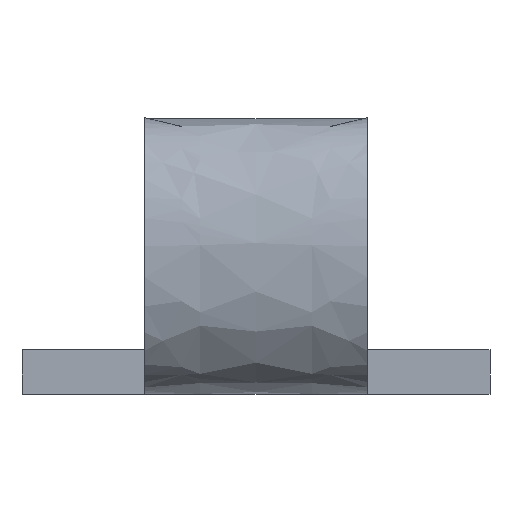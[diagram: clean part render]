
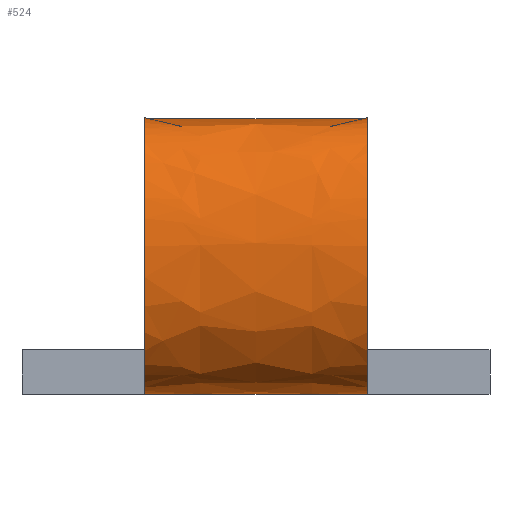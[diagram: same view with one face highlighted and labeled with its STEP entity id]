
A CAD part, left-side view. The second image highlights one B-rep face of the part: STEP entity #524.
In plain terms, the highlighted free-form (B-spline) face has degree [5, 1] with [6, 2] control points.
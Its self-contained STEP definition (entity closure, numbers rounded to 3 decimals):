
#70 = CARTESIAN_POINT ( 'NONE',  ( -36.379, 13.005, 0. ) ) ;
#90 = VERTEX_POINT ( 'NONE', #342 ) ;
#98 = CARTESIAN_POINT ( 'NONE',  ( -36.379, 13.005, 0. ) ) ;
#127 = VECTOR ( 'NONE', #995, 1000. ) ;
#132 = CARTESIAN_POINT ( 'NONE',  ( -36.379, 13.005, 0. ) ) ;
#143 = CARTESIAN_POINT ( 'NONE',  ( -36.379, 3.005, 12.36 ) ) ;
#145 = CARTESIAN_POINT ( 'NONE',  ( -36.379, 13.005, 0.276 ) ) ;
#194 = EDGE_LOOP ( 'NONE', ( #234, #733, #601, #372 ) ) ;
#199 = CARTESIAN_POINT ( 'NONE',  ( -36.379, 13.005, 12.36 ) ) ;
#214 = CARTESIAN_POINT ( 'NONE',  ( -42.607, 13.005, 6.669 ) ) ;
#219 = CARTESIAN_POINT ( 'NONE',  ( -42.607, 3.005, 6.669 ) ) ;
#234 = ORIENTED_EDGE ( 'NONE', *, *, #835, .F. ) ;
#269 = CARTESIAN_POINT ( 'NONE',  ( -36.379, 3.005, 12.36 ) ) ;
#281 = EDGE_CURVE ( 'NONE', #649, #90, #501, .T. ) ;
#291 = B_SPLINE_SURFACE_WITH_KNOTS ( 'NONE', 5, 1, ( 
 ( #944, #143 ),
 ( #775, #694 ),
 ( #214, #219 ),
 ( #778, #700 ),
 ( #145, #627 ),
 ( #70, #546 ) ),
 .UNSPECIFIED., .F., .F., .F.,
 ( 6, 6 ),
 ( 2, 2 ),
 ( 0., 1. ),
 ( 0., 1. ),
 .UNSPECIFIED. ) ;
#340 = LINE ( 'NONE', #500, #752 ) ;
#342 = CARTESIAN_POINT ( 'NONE',  ( -36.379, 3.005, 0. ) ) ;
#355 = FACE_OUTER_BOUND ( 'NONE', #194, .T. ) ;
#371 = CARTESIAN_POINT ( 'NONE',  ( -36.379, 13.005, 12.36 ) ) ;
#372 = ORIENTED_EDGE ( 'NONE', *, *, #281, .T. ) ;
#376 = CARTESIAN_POINT ( 'NONE',  ( -36.379, 3.005, 0.276 ) ) ;
#409 = B_SPLINE_CURVE_WITH_KNOTS ( 'NONE', 5,
 ( #269, #572, #757, #1010, #376, #609 ),
 .UNSPECIFIED., .F., .F.,
 ( 6, 6 ),
 ( 0., 1. ),
 .UNSPECIFIED. ) ;
#435 = EDGE_CURVE ( 'NONE', #1007, #649, #969, .T. ) ;
#500 = CARTESIAN_POINT ( 'NONE',  ( -36.379, 13.005, 12.36 ) ) ;
#501 = LINE ( 'NONE', #518, #127 ) ;
#518 = CARTESIAN_POINT ( 'NONE',  ( -36.379, 13.005, 0. ) ) ;
#524 = ADVANCED_FACE ( 'NONE', ( #355 ), #291, .T. ) ;
#546 = CARTESIAN_POINT ( 'NONE',  ( -36.379, 3.005, 0. ) ) ;
#572 = CARTESIAN_POINT ( 'NONE',  ( -42.03, 3.005, 13.103 ) ) ;
#601 = ORIENTED_EDGE ( 'NONE', *, *, #435, .T. ) ;
#606 = CARTESIAN_POINT ( 'NONE',  ( -36.379, 13.005, 0.276 ) ) ;
#609 = CARTESIAN_POINT ( 'NONE',  ( -36.379, 3.005, 0. ) ) ;
#617 = CARTESIAN_POINT ( 'NONE',  ( -42.03, 13.005, 13.103 ) ) ;
#627 = CARTESIAN_POINT ( 'NONE',  ( -36.379, 3.005, 0.276 ) ) ;
#649 = VERTEX_POINT ( 'NONE', #98 ) ;
#680 = CARTESIAN_POINT ( 'NONE',  ( -43.308, 13.005, -1.993 ) ) ;
#694 = CARTESIAN_POINT ( 'NONE',  ( -42.03, 3.005, 13.103 ) ) ;
#698 = VERTEX_POINT ( 'NONE', #905 ) ;
#700 = CARTESIAN_POINT ( 'NONE',  ( -43.308, 3.005, -1.993 ) ) ;
#733 = ORIENTED_EDGE ( 'NONE', *, *, #801, .F. ) ;
#752 = VECTOR ( 'NONE', #912, 1000. ) ;
#757 = CARTESIAN_POINT ( 'NONE',  ( -42.607, 3.005, 6.669 ) ) ;
#775 = CARTESIAN_POINT ( 'NONE',  ( -42.03, 13.005, 13.103 ) ) ;
#778 = CARTESIAN_POINT ( 'NONE',  ( -43.308, 13.005, -1.993 ) ) ;
#801 = EDGE_CURVE ( 'NONE', #1007, #698, #340, .T. ) ;
#835 = EDGE_CURVE ( 'NONE', #698, #90, #409, .T. ) ;
#877 = CARTESIAN_POINT ( 'NONE',  ( -42.607, 13.005, 6.669 ) ) ;
#905 = CARTESIAN_POINT ( 'NONE',  ( -36.379, 3.005, 12.36 ) ) ;
#912 = DIRECTION ( 'NONE',  ( 0., -1., 0. ) ) ;
#944 = CARTESIAN_POINT ( 'NONE',  ( -36.379, 13.005, 12.36 ) ) ;
#969 = B_SPLINE_CURVE_WITH_KNOTS ( 'NONE', 5,
 ( #199, #617, #877, #680, #606, #132 ),
 .UNSPECIFIED., .F., .F.,
 ( 6, 6 ),
 ( 0., 1. ),
 .UNSPECIFIED. ) ;
#995 = DIRECTION ( 'NONE',  ( 0., -1., 0. ) ) ;
#1007 = VERTEX_POINT ( 'NONE', #371 ) ;
#1010 = CARTESIAN_POINT ( 'NONE',  ( -43.308, 3.005, -1.993 ) ) ;
